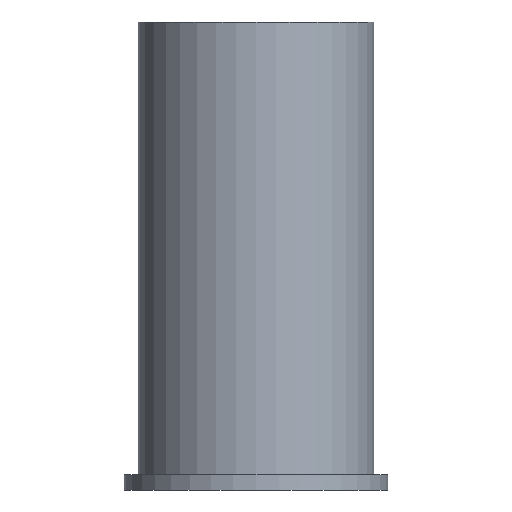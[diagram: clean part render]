
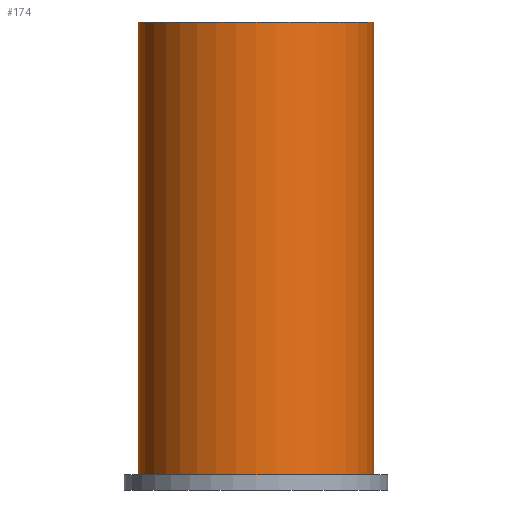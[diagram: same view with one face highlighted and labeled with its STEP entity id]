
A CAD part, front view. The second image highlights one B-rep face of the part: STEP entity #174.
In plain terms, the highlighted cylindrical face has radius 19.177 mm (diameter 38.354 mm), a full revolution.
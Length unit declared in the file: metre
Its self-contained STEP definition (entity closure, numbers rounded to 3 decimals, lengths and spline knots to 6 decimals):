
#41=ORIENTED_EDGE('',*,*,#67,.F.);
#42=ORIENTED_EDGE('',*,*,#69,.F.);
#67=EDGE_CURVE('',#82,#82,#97,.F.);
#69=EDGE_CURVE('',#84,#84,#99,.T.);
#82=VERTEX_POINT('',#291);
#84=VERTEX_POINT('',#297);
#97=CIRCLE('',#205,0.019177);
#99=CIRCLE('',#209,0.019177);
#113=EDGE_LOOP('',(#41));
#114=EDGE_LOOP('',(#42));
#143=FACE_BOUND('',#113,.T.);
#144=FACE_BOUND('',#114,.T.);
#167=CYLINDRICAL_SURFACE('',#208,0.019177);
#174=ADVANCED_FACE('',(#143,#144),#167,.T.);
#205=AXIS2_PLACEMENT_3D('',#290,#240,#241);
#208=AXIS2_PLACEMENT_3D('',#295,#246,#247);
#209=AXIS2_PLACEMENT_3D('',#296,#248,#249);
#240=DIRECTION('',(0.,0.,1.));
#241=DIRECTION('',(1.,0.,0.));
#246=DIRECTION('',(0.,0.,-1.));
#247=DIRECTION('',(-1.,0.,0.));
#248=DIRECTION('',(0.,0.,1.));
#249=DIRECTION('',(1.,0.,0.));
#290=CARTESIAN_POINT('',(0.,0.,0.00247));
#291=CARTESIAN_POINT('',(0.019177,0.,0.00247));
#295=CARTESIAN_POINT('',(0.,0.,0.0254));
#296=CARTESIAN_POINT('',(0.,0.,0.0762));
#297=CARTESIAN_POINT('',(0.019177,0.,0.0762));
